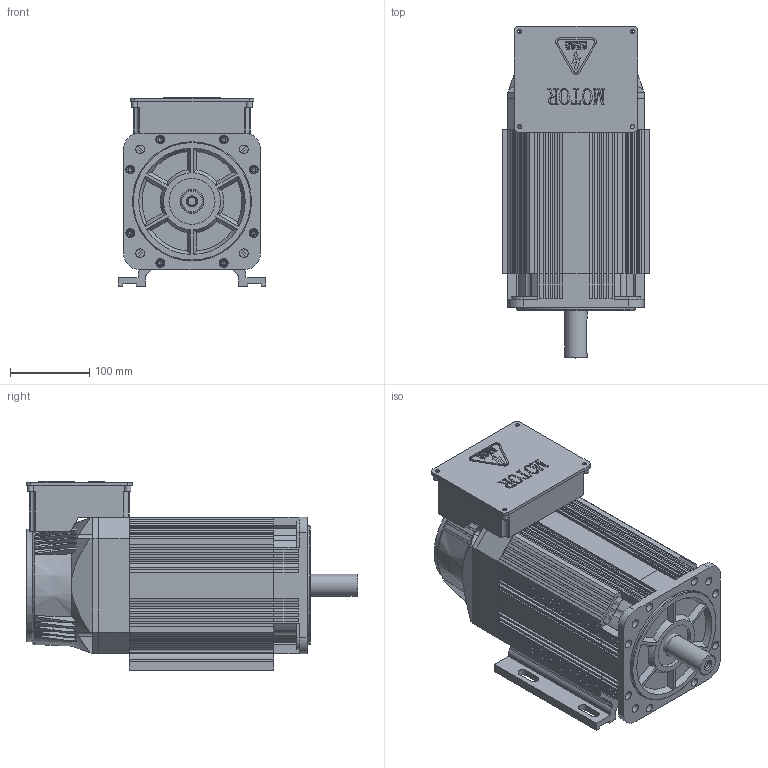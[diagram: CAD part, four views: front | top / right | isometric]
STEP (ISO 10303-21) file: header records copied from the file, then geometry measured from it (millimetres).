
FILE_DESCRIPTION(/* description */ (''),/* implementation_level */ '2;1');
FILE_NAME(/* name */ '172ZJY-4-4-15-A(立卧通用).stp',/* time_stamp */ '2024-11-15T13:14:13+08:00',/* author */ (''),/* organization */ (''),/* preprocessor_version */ 'ST-DEVELOPER v18.1',/* originating_system */ 'SIEMENS PLM Software NX 2000',/* authorisation */ '');
FILE_SCHEMA (('AUTOMOTIVE_DESIGN { 1 0 10303 214 3 1 1 1 }'));
Products named in the file (1): 172ZJY-4-4-15_立卧通用__stp
Bounding box: 186 x 418 x 237.5 mm (x, y, z)
Volume: 8203324.4 mm3; surface area: 856342.4 mm2
Topology: 15 solids, 15 shells, 2305 faces, 6318 edges, 4159 vertices
Faces by surface type: plane 1346, cylinder 664, extrusion 170, cone 108, torus 17
Full cylindrical faces by diameter (mm): 4.5 x4, 5 x8, 5.3 x8, 5.795 x8, 6 x4, 7 x8, 8 x4, 10 x9, 11 x12, 12 x2, 26 x1, 28 x1, 30 x1, 58 x1, 137 x1, 150 x1
Entity records: 76713 total; most frequent: CARTESIAN_POINT 22016, ORIENTED_EDGE 12300, DIRECTION 9385, EDGE_CURVE 6150, VERTEX_POINT 4114, AXIS2_PLACEMENT_3D 3134, VECTOR 3117, LINE 2947
